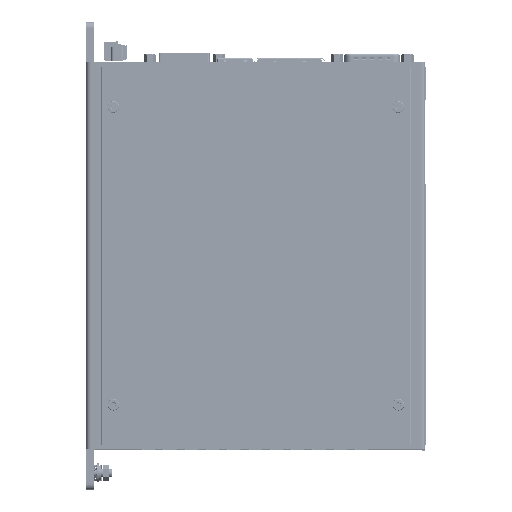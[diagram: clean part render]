
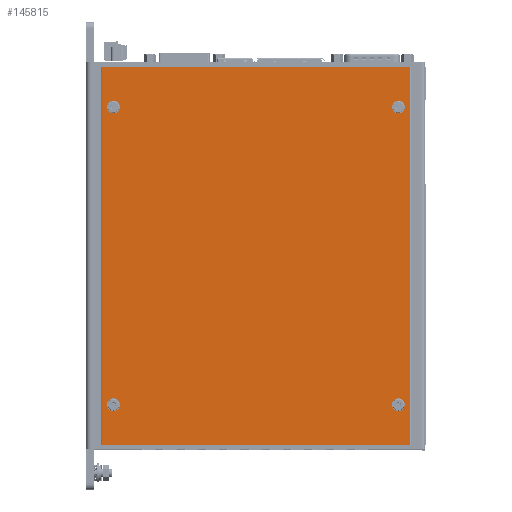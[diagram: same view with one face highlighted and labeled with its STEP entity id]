
A CAD part, top view. The second image highlights one B-rep face of the part: STEP entity #145815.
In plain terms, the highlighted planar face has unit normal (0, 0, 1).
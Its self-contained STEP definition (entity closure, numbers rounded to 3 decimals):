
#145625=DIRECTION('',(0.,-1.,0.));
#145626=VECTOR('',#145625,177.6);
#145627=CARTESIAN_POINT('',(66.3,88.3,46.2));
#145628=LINE('',#145627,#145626);
#145629=DIRECTION('',(-1.,0.,0.));
#145630=VECTOR('',#145629,145.1);
#145631=CARTESIAN_POINT('',(66.3,-89.3,46.2));
#145632=LINE('',#145631,#145630);
#145633=DIRECTION('',(0.,1.,0.));
#145634=VECTOR('',#145633,177.6);
#145635=CARTESIAN_POINT('',(-78.8,-89.3,46.2));
#145636=LINE('',#145635,#145634);
#145637=DIRECTION('',(1.,0.,0.));
#145638=VECTOR('',#145637,145.1);
#145639=CARTESIAN_POINT('',(-78.8,88.3,46.2));
#145640=LINE('',#145639,#145638);
#145641=CARTESIAN_POINT('',(-73.25,69.5,46.2));
#145642=DIRECTION('',(0.,0.,1.));
#145643=DIRECTION('',(0.,1.,0.));
#145644=AXIS2_PLACEMENT_3D('',#145641,#145642,#145643);
#145646=CARTESIAN_POINT('',(-73.25,69.5,46.2));
#145647=DIRECTION('',(0.,0.,1.));
#145648=DIRECTION('',(0.,-1.,0.));
#145649=AXIS2_PLACEMENT_3D('',#145646,#145647,#145648);
#145651=CARTESIAN_POINT('',(-73.25,-70.5,46.2));
#145652=DIRECTION('',(0.,0.,1.));
#145653=DIRECTION('',(0.,1.,0.));
#145654=AXIS2_PLACEMENT_3D('',#145651,#145652,#145653);
#145656=CARTESIAN_POINT('',(-73.25,-70.5,46.2));
#145657=DIRECTION('',(0.,0.,1.));
#145658=DIRECTION('',(0.,-1.,0.));
#145659=AXIS2_PLACEMENT_3D('',#145656,#145657,#145658);
#145661=CARTESIAN_POINT('',(60.75,69.5,46.2));
#145662=DIRECTION('',(0.,0.,1.));
#145663=DIRECTION('',(0.,1.,0.));
#145664=AXIS2_PLACEMENT_3D('',#145661,#145662,#145663);
#145666=CARTESIAN_POINT('',(60.75,69.5,46.2));
#145667=DIRECTION('',(0.,0.,1.));
#145668=DIRECTION('',(0.,-1.,0.));
#145669=AXIS2_PLACEMENT_3D('',#145666,#145667,#145668);
#145671=CARTESIAN_POINT('',(60.75,-70.5,46.2));
#145672=DIRECTION('',(0.,0.,1.));
#145673=DIRECTION('',(0.,1.,0.));
#145674=AXIS2_PLACEMENT_3D('',#145671,#145672,#145673);
#145676=CARTESIAN_POINT('',(60.75,-70.5,46.2));
#145677=DIRECTION('',(0.,0.,1.));
#145678=DIRECTION('',(0.,-1.,0.));
#145679=AXIS2_PLACEMENT_3D('',#145676,#145677,#145678);
#145681=CARTESIAN_POINT('',(66.3,-89.3,46.2));
#145682=CARTESIAN_POINT('',(66.3,88.3,46.2));
#145683=VERTEX_POINT('',#145681);
#145684=VERTEX_POINT('',#145682);
#145685=CARTESIAN_POINT('',(-78.8,-89.3,46.2));
#145686=CARTESIAN_POINT('',(-78.8,88.3,46.2));
#145687=VERTEX_POINT('',#145685);
#145688=VERTEX_POINT('',#145686);
#145689=CARTESIAN_POINT('',(-73.25,66.5,46.2));
#145690=CARTESIAN_POINT('',(-73.25,72.5,46.2));
#145691=VERTEX_POINT('',#145689);
#145692=VERTEX_POINT('',#145690);
#145693=CARTESIAN_POINT('',(-73.25,-73.5,46.2));
#145694=CARTESIAN_POINT('',(-73.25,-67.5,46.2));
#145695=VERTEX_POINT('',#145693);
#145696=VERTEX_POINT('',#145694);
#145697=CARTESIAN_POINT('',(60.75,66.5,46.2));
#145698=CARTESIAN_POINT('',(60.75,72.5,46.2));
#145699=VERTEX_POINT('',#145697);
#145700=VERTEX_POINT('',#145698);
#145701=CARTESIAN_POINT('',(60.75,-73.5,46.2));
#145702=CARTESIAN_POINT('',(60.75,-67.5,46.2));
#145703=VERTEX_POINT('',#145701);
#145704=VERTEX_POINT('',#145702);
#145776=CARTESIAN_POINT('',(66.3,-89.3,46.2));
#145777=DIRECTION('',(0.,0.,1.));
#145778=DIRECTION('',(0.,1.,0.));
#145779=AXIS2_PLACEMENT_3D('',#145776,#145777,#145778);
#145780=PLANE('',#145779);
#145782=ORIENTED_EDGE('',*,*,#145781,.T.);
#145784=ORIENTED_EDGE('',*,*,#145783,.T.);
#145786=ORIENTED_EDGE('',*,*,#145785,.T.);
#145788=ORIENTED_EDGE('',*,*,#145787,.T.);
#145789=EDGE_LOOP('',(#145782,#145784,#145786,#145788));
#145790=FACE_OUTER_BOUND('',#145789,.F.);
#145792=ORIENTED_EDGE('',*,*,#145791,.T.);
#145794=ORIENTED_EDGE('',*,*,#145793,.T.);
#145795=EDGE_LOOP('',(#145792,#145794));
#145796=FACE_BOUND('',#145795,.F.);
#145798=ORIENTED_EDGE('',*,*,#145797,.T.);
#145800=ORIENTED_EDGE('',*,*,#145799,.T.);
#145801=EDGE_LOOP('',(#145798,#145800));
#145802=FACE_BOUND('',#145801,.F.);
#145804=ORIENTED_EDGE('',*,*,#145803,.T.);
#145806=ORIENTED_EDGE('',*,*,#145805,.T.);
#145807=EDGE_LOOP('',(#145804,#145806));
#145808=FACE_BOUND('',#145807,.F.);
#145810=ORIENTED_EDGE('',*,*,#145809,.T.);
#145812=ORIENTED_EDGE('',*,*,#145811,.T.);
#145813=EDGE_LOOP('',(#145810,#145812));
#145814=FACE_BOUND('',#145813,.F.);
#145645=CIRCLE('',#145644,3.);
#145650=CIRCLE('',#145649,3.);
#145655=CIRCLE('',#145654,3.);
#145660=CIRCLE('',#145659,3.);
#145665=CIRCLE('',#145664,3.);
#145670=CIRCLE('',#145669,3.);
#145675=CIRCLE('',#145674,3.);
#145680=CIRCLE('',#145679,3.);
#145781=EDGE_CURVE('',#145684,#145683,#145628,.T.);
#145783=EDGE_CURVE('',#145683,#145687,#145632,.T.);
#145785=EDGE_CURVE('',#145687,#145688,#145636,.T.);
#145787=EDGE_CURVE('',#145688,#145684,#145640,.T.);
#145791=EDGE_CURVE('',#145692,#145691,#145645,.T.);
#145793=EDGE_CURVE('',#145691,#145692,#145650,.T.);
#145797=EDGE_CURVE('',#145696,#145695,#145655,.T.);
#145799=EDGE_CURVE('',#145695,#145696,#145660,.T.);
#145803=EDGE_CURVE('',#145700,#145699,#145665,.T.);
#145805=EDGE_CURVE('',#145699,#145700,#145670,.T.);
#145809=EDGE_CURVE('',#145704,#145703,#145675,.T.);
#145811=EDGE_CURVE('',#145703,#145704,#145680,.T.);
#145815=ADVANCED_FACE('',(#145790,#145796,#145802,#145808,#145814),#145780,.T.);
